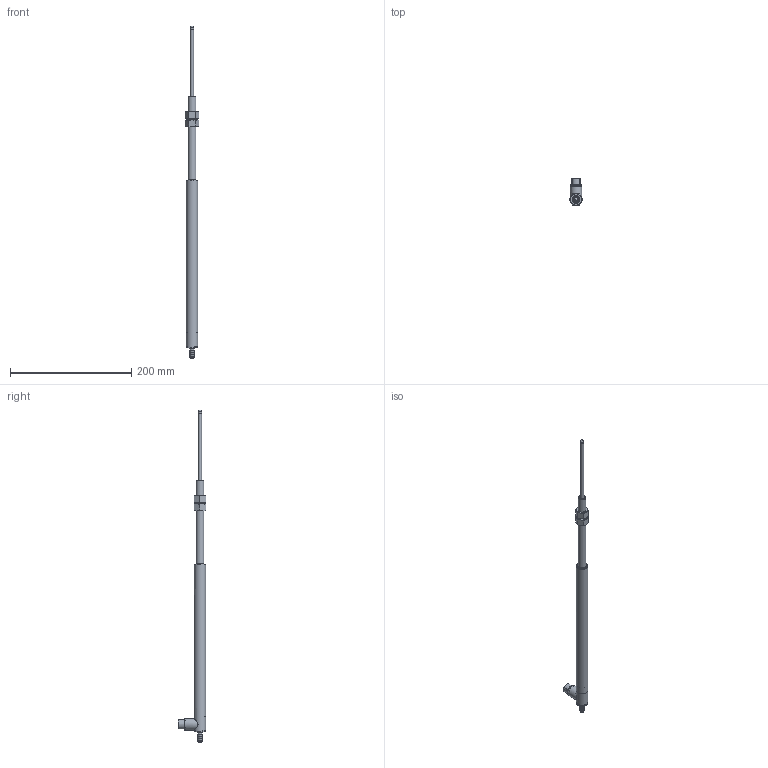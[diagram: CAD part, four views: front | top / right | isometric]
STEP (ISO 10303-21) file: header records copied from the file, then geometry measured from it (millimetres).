
FILE_DESCRIPTION(/* description */ (''),/* implementation_level */ '2;1');
FILE_NAME(/* name */ 'F:\GHRA SERIES\GHRA-750-A-XXXX\GHRA-750-A-2000\GHRA-750-A-2000 ASSEMBLY.iam.stp',/* time_stamp */ '2021-11-17T12:45:40-05:00',/* author */ ('J. Nielson'),/* organization */ (''),/* preprocessor_version */ 'ST-DEVELOPER v18.1',/* originating_system */ 'Autodesk Inventor 2022',/* authorisation */ '');
FILE_SCHEMA (('AUTOMOTIVE_DESIGN { 1 0 10303 214 3 1 1 }'));
Length unit declared in the file: inch
Products named in the file (4): GHRA-750-A-2000 ASSEMBLY; GHRA-750-A-2000 HOUSING_Substitute_1; GHRA-750-A-2000 SHAFT_Substitute_1; AS 2465 - 1/2  UNF
Assembly tree (4 placements, depth 2):
  GHRA-750-A-2000 ASSEMBLY
    GHRA-750-A-2000 HOUSING_Substitute_1
    GHRA-750-A-2000 SHAFT_Substitute_1
    AS 2465 - 1/2  UNF  x2
Bounding box: 22 x 45.24 x 548.26 mm (x, y, z)
Volume: 50076.7 mm3; surface area: 54066.1 mm2
Topology: 17 solids, 17 shells, 210 faces, 417 edges, 265 vertices
Faces by surface type: plane 82, cylinder 68, cone 47, bspline 7, torus 5, sphere 1
Full cylindrical faces by diameter (mm): 0.762 x12, 2.845 x3, 4.762 x1, 4.826 x2, 5.334 x4, 5.397 x1, 6 x1, 6.731 x1, 7.493 x4, 7.671 x2, 7.874 x1, 11.328 x2, 12.7 x1, 13.208 x1, 14.986 x1, 15.748 x2, 16.51 x1, 17.018 x1, 17.069 x1, 17.78 x1, 18.034 x1, 18.415 x6, 19.05 x2
Entity records: 7342 total; most frequent: CARTESIAN_POINT 3001, DIRECTION 898, ORIENTED_EDGE 730, AXIS2_PLACEMENT_3D 384, EDGE_CURVE 365, EDGE_LOOP 239, VERTEX_POINT 236, CIRCLE 196
